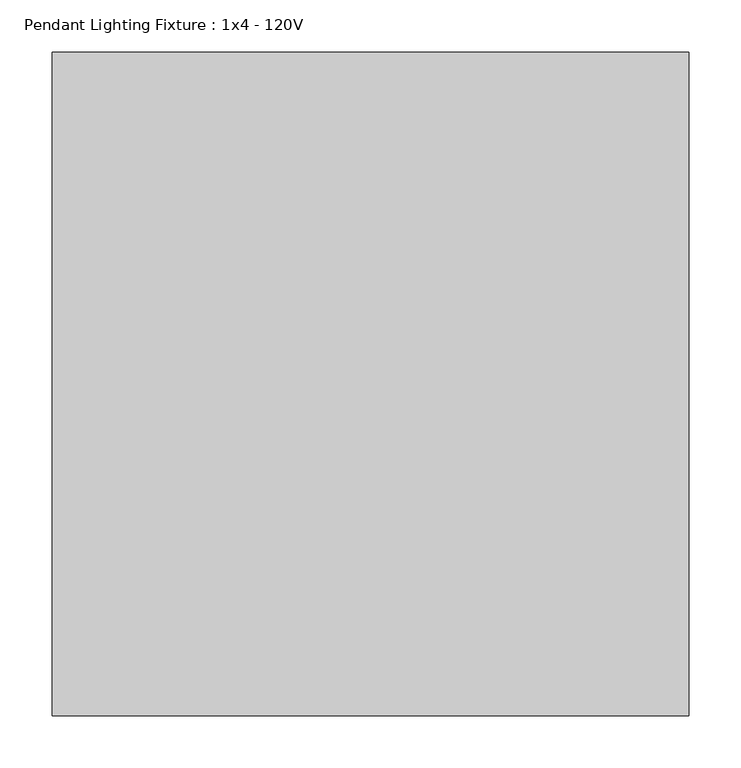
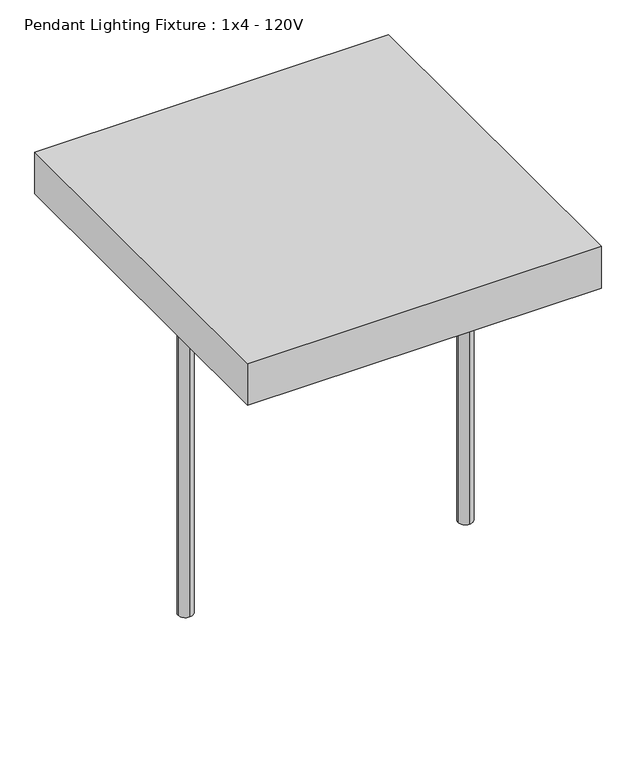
"""IFC4 building model written with IfcOpenShell, lengths in millimetres: light fixture geometry, Pendant Lighting Fixture : 1x4 - 120V."""

from ifc_helpers import new_model, si_unit, point, frame, frame_2d, origin, origin_with_axes, place, context, project, spatial, polyline, circle_curve, trimmed, segment, composite_curve, outline, extrude, source, transform, mapped, element, save


def pendant_lighting_fixture_1x4_120v_91103dd0(model_context):
    return source(origin(), model_context, "Body", "SweptSolid", [
        extrude(outline(composite_curve([segment(trimmed(circle_curve(frame_2d((76.2, -101.6)), 12.7), [point((88.9, -101.6))], [point((76.2, -114.3))], False, "CARTESIAN"), True, "CONTINUOUS"), segment(trimmed(circle_curve(frame_2d((76.2, -101.6)), 12.7), [point((76.2, -114.3))], [point((63.5, -101.6))], False, "CARTESIAN"), True, "CONTINUOUS"), segment(trimmed(circle_curve(frame_2d((76.2, -101.6)), 12.7), [point((63.5, -101.6))], [point((76.2, -88.9))], False, "CARTESIAN"), True, "CONTINUOUS"), segment(trimmed(circle_curve(frame_2d((76.2, -101.6)), 12.7), [point((76.2, -88.9))], [point((88.9, -101.6))], False, "CARTESIAN"), True, "CONTINUOUS")], self_intersect=False)), origin_with_axes(), (0.0, 0.0, 1.0), 596.9),
        extrude(outline(composite_curve([segment(trimmed(circle_curve(frame_2d((558.8, -101.6)), 12.7), [point((571.5, -101.6))], [point((558.8, -114.3))], False, "CARTESIAN"), True, "CONTINUOUS"), segment(trimmed(circle_curve(frame_2d((558.8, -101.6)), 12.7), [point((558.8, -114.3))], [point((546.1, -101.6))], False, "CARTESIAN"), True, "CONTINUOUS"), segment(trimmed(circle_curve(frame_2d((558.8, -101.6)), 12.7), [point((546.1, -101.6))], [point((558.8, -88.9))], False, "CARTESIAN"), True, "CONTINUOUS"), segment(trimmed(circle_curve(frame_2d((558.8, -101.6)), 12.7), [point((558.8, -88.9))], [point((571.5, -101.6))], False, "CARTESIAN"), True, "CONTINUOUS")], self_intersect=False)), origin_with_axes(), (0.0, 0.0, 1.0), 596.9),
        extrude(outline(polyline([(609.6, 215.9), (609.6, -419.1), (0.0, -419.1), (0.0, 215.9), (609.6, 215.9)])), frame((0.0, 0.0, 596.9), z_axis=(0.0, 0.0, 1.0), x_axis=(1.0, 0.0, 0.0)), (0.0, 0.0, 1.0), 76.2),
    ])


if __name__ == "__main__":
    model = new_model("IFC4")
    model_context = context("Model", 3, world=origin())
    ifc_project = project(units=[si_unit("LENGTHUNIT", "METRE", prefix="MILLI")], contexts=[model_context])
    site = spatial("IfcSite", under=ifc_project)
    building = spatial("IfcBuilding", under=site)
    placement = place(None, origin())
    pendant_lighting_fixture_1x4_120v_shape = pendant_lighting_fixture_1x4_120v_91103dd0(model_context)
    element("IfcLightFixture", 1, ObjectType="Pendant Lighting Fixture : 1x4 - 120V", at=placement, inside=building, context=model_context, shape_type="MappedRepresentation", body=[
        mapped(pendant_lighting_fixture_1x4_120v_shape, transform((0.0, 0.0, 0.0), x_axis=(1.0, 0.0, 0.0), y_axis=(0.0, 1.0, 0.0), z_axis=(0.0, 0.0, 1.0))),
    ])
    save(model, "model.ifc")
